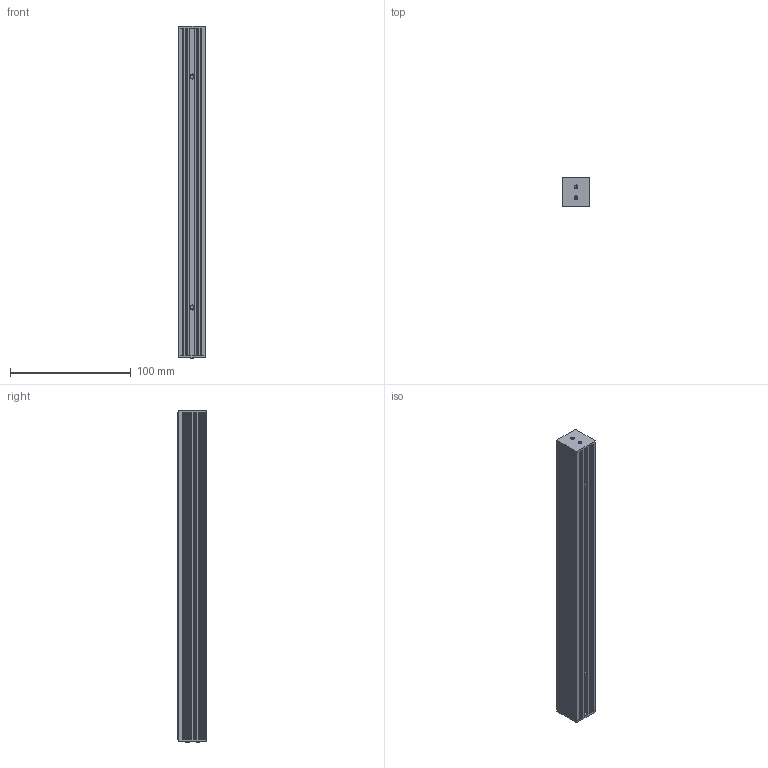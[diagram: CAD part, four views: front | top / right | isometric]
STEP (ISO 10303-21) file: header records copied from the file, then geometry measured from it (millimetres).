
FILE_DESCRIPTION((''),'2;1');
FILE_NAME('DSL','2020-03-23T',('ASUS'),(''),'PRO/ENGINEER BY PARAMETRIC TECHNOLOGY CORPORATION, 2008380','PRO/ENGINEER BY PARAMETRIC TECHNOLOGY CORPORATION, 2008380','');
FILE_SCHEMA(('CONFIG_CONTROL_DESIGN'));
Length unit declared in the file: millimetre
Products named in the file (1): DSL
Bounding box: 22 x 24.02 x 275 mm (x, y, z)
Volume: 126801.8 mm3; surface area: 49225.7 mm2
Topology: 1 solids, 5 shells, 283 faces, 720 edges, 465 vertices
Faces by surface type: plane 177, cylinder 86, cone 20
Entity records: 8494 total; most frequent: CARTESIAN_POINT 1524, DIRECTION 1441, ORIENTED_EDGE 1408, EDGE_CURVE 712, VECTOR 513, LINE 513, VERTEX_POINT 465, AXIS2_PLACEMENT_3D 464
